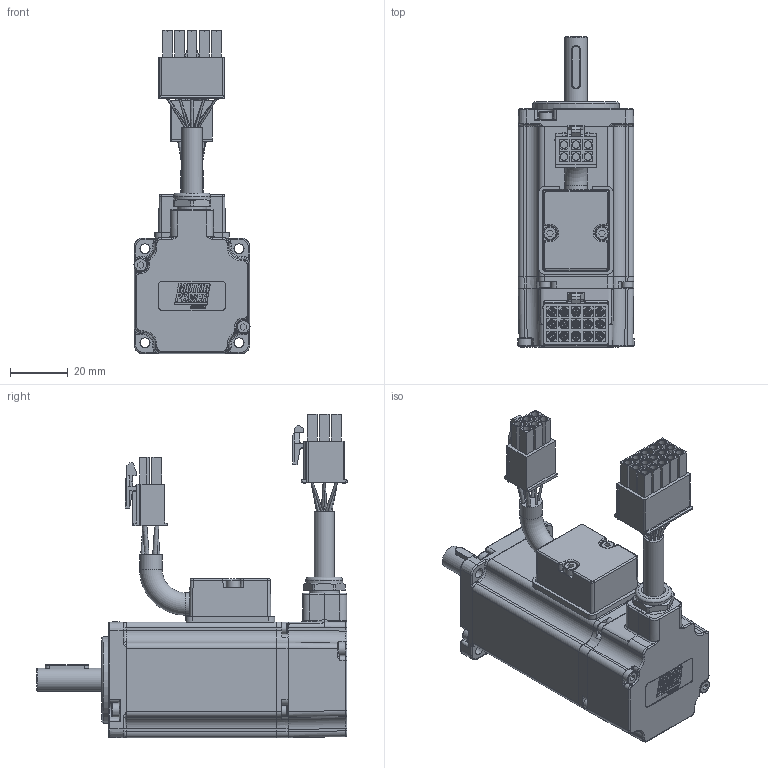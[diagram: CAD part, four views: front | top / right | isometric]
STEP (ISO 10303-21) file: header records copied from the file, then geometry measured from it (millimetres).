
FILE_DESCRIPTION(/* description */ ('Unknown'),/* implementation_level */ '2;1');
FILE_NAME(/* name */ 'TC4-40.1B.33.1.2.M1.0.0 .D2',/* time_stamp */ '2026-01-26T16:46:51+01:00',/* author */ ('Unknown'),/* organization */ ('Unknown'),/* preprocessor_version */ 'ST-DEVELOPER v19.4',/* originating_system */ 'Solid Edge',/* authorisation */ 'Unknown');
FILE_SCHEMA (('AUTOMOTIVE_DESIGN {1 0 10303 214 3 1 1}'));
Products named in the file (20): TC4-40.1B.33.1.2.M1.0.0 ; 005113000100; 005911000170; 003103040159; 005123005450; 005911000274; 005911003776; 003003200438; 003151003114; 003251040602; 003108020616; 003303000709; 005453000452_D7,8; 003108010016_curvo; 001799000503; 005911000598; 005911000185; 003107003254; 003108010154; 005603001004
Assembly tree (26 placements, depth 3):
  TC4-40.1B.33.1.2.M1.0.0 
    005113000100
    005911000170  x4
    003103040159
    005123005450
    005911000274
    005911003776
    003003200438
    003151003114
    003251040602
    003108020616
      003303000709
      005453000452_D7,8
      003108010016_curvo
    001799000503
    005911000598  x2
    005911000185  x4
    003107003254
    003108010154
    005603001004
Bounding box: 40.2 x 107.5 x 111.95 mm (x, y, z)
Volume: 60931.1 mm3; surface area: 62135.1 mm2
Topology: 28 solids, 28 shells, 2706 faces, 6842 edges, 4394 vertices
Faces by surface type: plane 1633, cylinder 504, bspline 186, torus 176, cone 161, sphere 46
Full cylindrical faces by diameter (mm): 0.314 x1, 0.749 x1, 0.75 x1, 1.567 x8, 1.6 x1, 1.82 x15, 2 x4, 2.013 x18, 2.3 x4, 2.459 x4, 2.5 x14, 2.6 x21, 2.7 x4, 2.8 x2, 3.2 x1, 3.8 x4, 4 x4, 4.7 x8, 6 x1, 6.5 x1, 7 x1, 7.25 x1, 7.4 x1, 7.8 x2, 8 x1, 8.5 x1, 9.99 x1, 10 x2, 10.3 x1, 10.647 x1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
Entity records: 94188 total; most frequent: CARTESIAN_POINT 24642, ORIENTED_EDGE 12368, DIRECTION 11007, EDGE_CURVE 6184, VERTEX_POINT 4147, LINE 4059, VECTOR 4059, AXIS2_PLACEMENT_3D 3474
